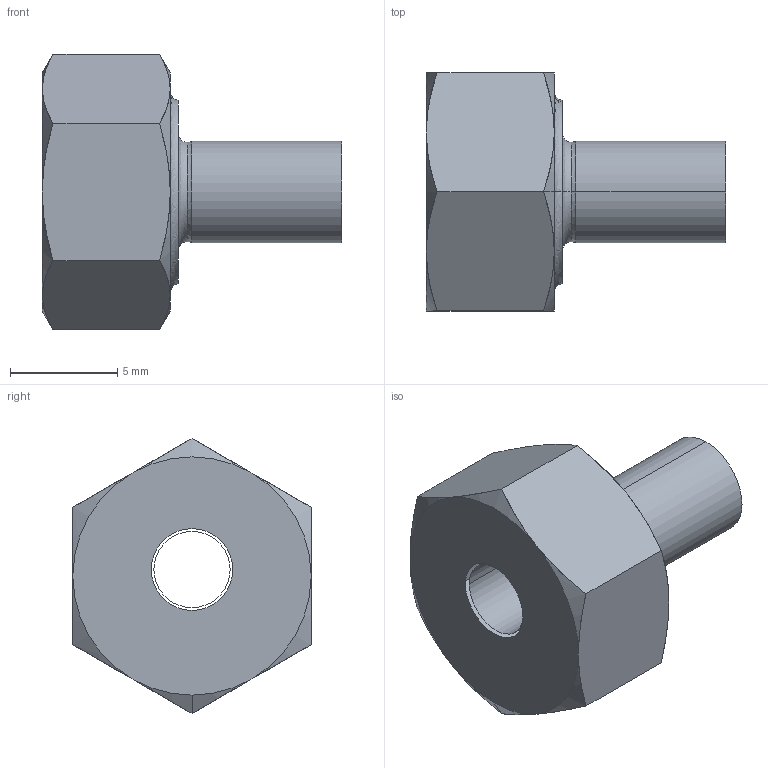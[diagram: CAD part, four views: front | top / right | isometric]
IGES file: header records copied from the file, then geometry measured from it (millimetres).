
Start section: 3D InterOp IGES (v. 2019 1.0.2), Spatial Corp. Copyright (c) 1999-2017.
Global section: file name: BX1SS.igs; native system: Spatial Corp.; preprocessor: 3D InterOp GENERIC/IGES 3.0; author: Noname; organization: Noname; date: 20200930.105800; units: millimetre
Bounding box: 13.97 x 11.11 x 12.83 mm (x, y, z)
Surface area: 678.1 mm2 (no closed solid volume)
Topology: 0 solids, 0 shells, 38 faces, 192 edges, 192 vertices
Faces by surface type: revolution 28, extrusion 10
